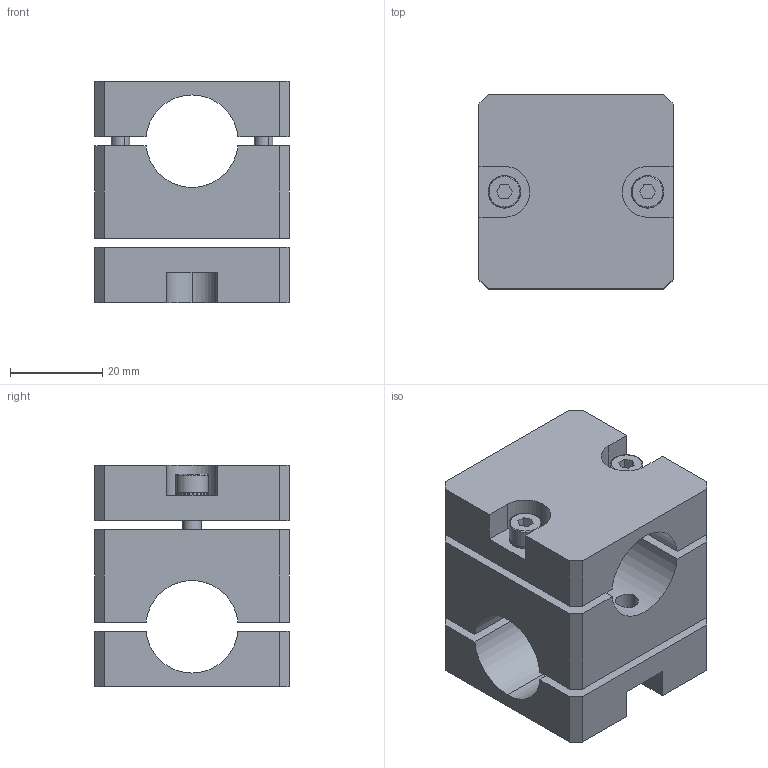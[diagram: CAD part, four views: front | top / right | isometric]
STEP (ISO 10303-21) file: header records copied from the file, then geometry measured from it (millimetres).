
FILE_DESCRIPTION (( 'STEP AP214' ), '1' );
FILE_NAME ('SMBT2-2020.STEP', '2019-11-06T05:42:27', ( '微软用户' ), ( '微软中国' ), 'SwSTEP 2.0', 'SolidWorks 2016', '' );
FILE_SCHEMA (( 'AUTOMOTIVE_DESIGN' ));
Length unit declared in the file: millimetre
Products named in the file (1): SMBT2-2020
Bounding box: 42 x 42 x 48 mm (x, y, z)
Volume: 50799.3 mm3; surface area: 20332.4 mm2
Topology: 7 solids, 7 shells, 501 faces, 1437 edges, 950 vertices
Faces by surface type: plane 450, cylinder 43, cone 4, bspline 4
Entity records: 22514 total; most frequent: CARTESIAN_POINT 3369, ORIENTED_EDGE 2874, DIRECTION 2867, EDGE_CURVE 1437, VECTOR 971, LINE 971, VERTEX_POINT 950, AXIS2_PLACEMENT_3D 948
